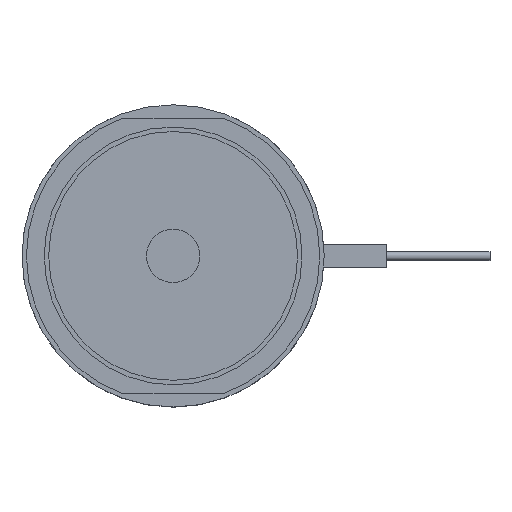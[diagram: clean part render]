
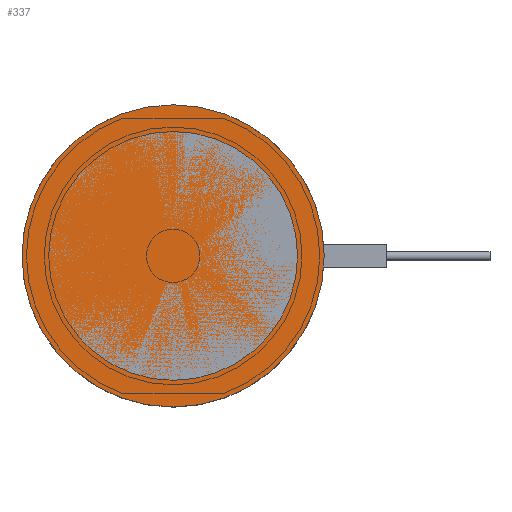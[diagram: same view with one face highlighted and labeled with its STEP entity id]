
A CAD part, top view. The second image highlights one B-rep face of the part: STEP entity #337.
In plain terms, the highlighted planar face has unit normal (0, 0, 1).
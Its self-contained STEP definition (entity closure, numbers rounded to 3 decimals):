
#248=CIRCLE('',#1171,17.);
#337=ADVANCED_FACE('',(#442),#404,.F.);
#404=PLANE('',#1172);
#442=FACE_OUTER_BOUND('',#529,.T.);
#529=EDGE_LOOP('',(#677));
#677=ORIENTED_EDGE('',*,*,#967,.F.);
#870=VERTEX_POINT('',#1729);
#967=EDGE_CURVE('',#870,#870,#248,.T.);
#1171=AXIS2_PLACEMENT_3D('',#1728,#1386,#1387);
#1172=AXIS2_PLACEMENT_3D('',#1730,#1388,#1389);
#1386=DIRECTION('',(0.,0.,-1.));
#1387=DIRECTION('',(-1.,0.,0.));
#1388=DIRECTION('',(0.,0.,-1.));
#1389=DIRECTION('',(-1.,0.,0.));
#1728=CARTESIAN_POINT('',(0.,0.,0.));
#1729=CARTESIAN_POINT('',(-17.,0.,0.));
#1730=CARTESIAN_POINT('',(0.,0.,0.));
